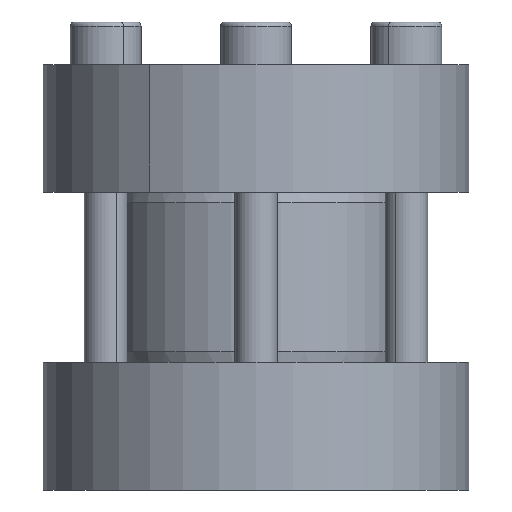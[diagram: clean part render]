
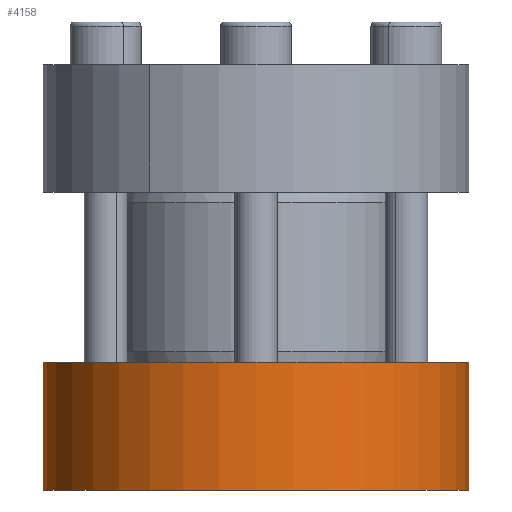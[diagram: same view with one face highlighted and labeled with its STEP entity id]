
A CAD part, front view. The second image highlights one B-rep face of the part: STEP entity #4158.
In plain terms, the highlighted cylindrical face has radius 30 mm (diameter 60 mm), a partial arc.
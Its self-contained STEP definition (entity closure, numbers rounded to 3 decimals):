
#49 = CARTESIAN_POINT ( 'NONE',  ( 0., 0., 16.49 ) ) ;
#498 = EDGE_CURVE ( 'NONE', #1320, #6829, #568, .T. ) ;
#568 = CIRCLE ( 'NONE', #973, 30. ) ;
#973 = AXIS2_PLACEMENT_3D ( 'NONE', #7681, #3376, #8416 ) ;
#1194 = EDGE_CURVE ( 'NONE', #6829, #3879, #3790, .T. ) ;
#1218 = VECTOR ( 'NONE', #4942, 1000. ) ;
#1320 = VERTEX_POINT ( 'NONE', #5317 ) ;
#1339 = EDGE_LOOP ( 'NONE', ( #4263, #5828, #8107, #1601 ) ) ;
#1429 = DIRECTION ( 'NONE',  ( 0., 0., -1. ) ) ;
#1513 = DIRECTION ( 'NONE',  ( 0., 0., 1. ) ) ;
#1601 = ORIENTED_EDGE ( 'NONE', *, *, #2715, .T. ) ;
#1729 = AXIS2_PLACEMENT_3D ( 'NONE', #5800, #1513, #6544 ) ;
#1877 = CARTESIAN_POINT ( 'NONE',  ( -30., 0., -1.51 ) ) ;
#2411 = AXIS2_PLACEMENT_3D ( 'NONE', #49, #1429, #8659 ) ;
#2439 = VERTEX_POINT ( 'NONE', #1877 ) ;
#2544 = CARTESIAN_POINT ( 'NONE',  ( 30., 0., -1.51 ) ) ;
#2715 = EDGE_CURVE ( 'NONE', #2439, #3879, #8921, .T. ) ;
#2932 = DIRECTION ( 'NONE',  ( 0., 0., -1. ) ) ;
#3376 = DIRECTION ( 'NONE',  ( 0., 0., 1. ) ) ;
#3790 = LINE ( 'NONE', #5672, #1218 ) ;
#3816 = FACE_OUTER_BOUND ( 'NONE', #1339, .T. ) ;
#3879 = VERTEX_POINT ( 'NONE', #2544 ) ;
#4158 = ADVANCED_FACE ( 'NONE', ( #3816 ), #8672, .T. ) ;
#4263 = ORIENTED_EDGE ( 'NONE', *, *, #1194, .F. ) ;
#4282 = LINE ( 'NONE', #6560, #6193 ) ;
#4942 = DIRECTION ( 'NONE',  ( 0., 0., -1. ) ) ;
#5317 = CARTESIAN_POINT ( 'NONE',  ( -30., 0., 16.49 ) ) ;
#5672 = CARTESIAN_POINT ( 'NONE',  ( 30., 0., 16.49 ) ) ;
#5800 = CARTESIAN_POINT ( 'NONE',  ( 0., 0., -1.51 ) ) ;
#5828 = ORIENTED_EDGE ( 'NONE', *, *, #498, .F. ) ;
#6193 = VECTOR ( 'NONE', #2932, 1000. ) ;
#6544 = DIRECTION ( 'NONE',  ( 1., 0., 0. ) ) ;
#6560 = CARTESIAN_POINT ( 'NONE',  ( -30., 0., 16.49 ) ) ;
#6829 = VERTEX_POINT ( 'NONE', #8982 ) ;
#7114 = EDGE_CURVE ( 'NONE', #1320, #2439, #4282, .T. ) ;
#7681 = CARTESIAN_POINT ( 'NONE',  ( 0., 0., 16.49 ) ) ;
#8107 = ORIENTED_EDGE ( 'NONE', *, *, #7114, .T. ) ;
#8416 = DIRECTION ( 'NONE',  ( 1., 0., 0. ) ) ;
#8659 = DIRECTION ( 'NONE',  ( -1., 0., 0. ) ) ;
#8672 = CYLINDRICAL_SURFACE ( 'NONE', #2411, 30. ) ;
#8921 = CIRCLE ( 'NONE', #1729, 30. ) ;
#8982 = CARTESIAN_POINT ( 'NONE',  ( 30., 0., 16.49 ) ) ;
